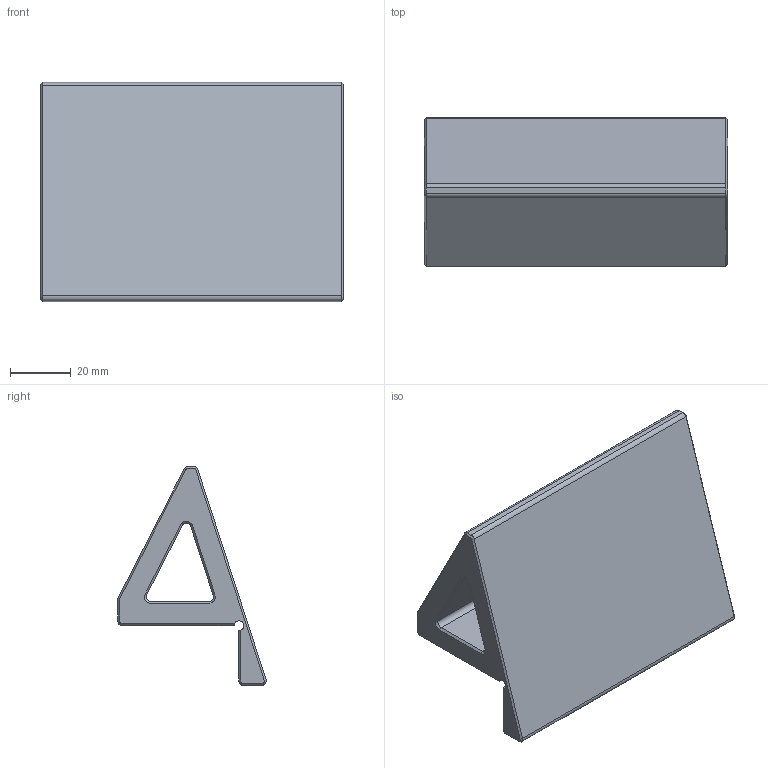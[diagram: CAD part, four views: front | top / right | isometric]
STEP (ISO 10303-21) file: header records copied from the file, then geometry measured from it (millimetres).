
FILE_DESCRIPTION(('Open CASCADE Model'),'2;1');
FILE_NAME('Open CASCADE Shape Model','2026-11-23T07:25:47',('Author'),( 'Open CASCADE'),'Open CASCADE STEP processor 7.9','Open CASCADE 7.9' ,'Unknown');
FILE_SCHEMA(('AUTOMOTIVE_DESIGN { 1 0 10303 214 1 1 1 1 }'));
Length unit declared in the file: millimetre
Products named in the file (1): Open CASCADE STEP translator 7.9 4
Bounding box: 100 x 49.01 x 72.3 mm (x, y, z)
Volume: 111895.6 mm3; surface area: 30821.7 mm2
Topology: 1 solids, 1 shells, 68 faces, 156 edges, 92 vertices
Faces by surface type: plane 34, cone 22, cylinder 12
Full cylindrical faces by diameter (mm): 2.8 x2
Entity records: 3902 total; most frequent: CARTESIAN_POINT 827, DIRECTION 550, ORIENTED_EDGE 312, PCURVE 312, DEFINITIONAL_REPRESENTATION 312, LINE 288, VECTOR 288, EDGE_CURVE 156
